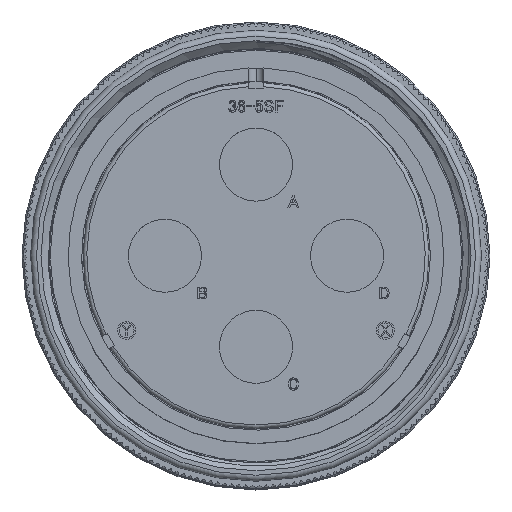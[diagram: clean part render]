
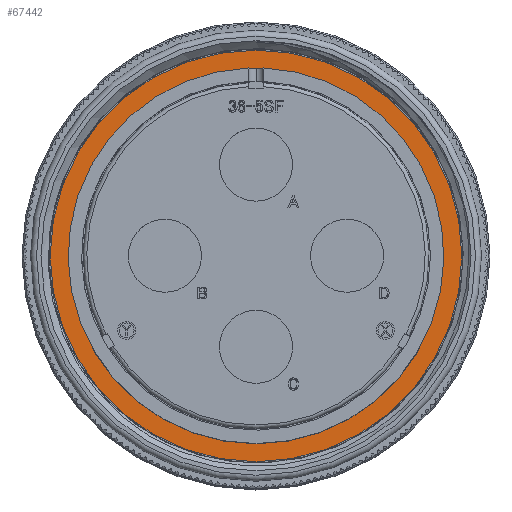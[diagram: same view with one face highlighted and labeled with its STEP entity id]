
A CAD part, top view. The second image highlights one B-rep face of the part: STEP entity #67442.
In plain terms, the highlighted planar face has unit normal (0, 0, 1).
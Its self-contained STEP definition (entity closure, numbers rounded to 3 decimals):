
#2685 = AXIS2_PLACEMENT_3D ( 'NONE', #93390, #58841, #85706 ) ;
#3106 = EDGE_LOOP ( 'NONE', ( #109513, #5513 ) ) ;
#5513 = ORIENTED_EDGE ( 'NONE', *, *, #36205, .F. ) ;
#5668 = PLANE ( 'NONE',  #16901 ) ;
#7629 = AXIS2_PLACEMENT_3D ( 'NONE', #79920, #27207, #71876 ) ;
#8226 = CARTESIAN_POINT ( 'NONE',  ( -0.999, 25.125, -16.66 ) ) ;
#14100 = DIRECTION ( 'NONE',  ( 0., 0., 1. ) ) ;
#16901 = AXIS2_PLACEMENT_3D ( 'NONE', #58702, #41022, #92492 ) ;
#23165 = CARTESIAN_POINT ( 'NONE',  ( 27.545, 0., -16.66 ) ) ;
#24816 = CARTESIAN_POINT ( 'NONE',  ( 0.999, 25.125, -16.66 ) ) ;
#27207 = DIRECTION ( 'NONE',  ( 0., 0., 1. ) ) ;
#32761 = VERTEX_POINT ( 'NONE', #24816 ) ;
#33607 = VERTEX_POINT ( 'NONE', #8226 ) ;
#36205 = EDGE_CURVE ( 'NONE', #33607, #32761, #85456, .T. ) ;
#36359 = EDGE_CURVE ( 'NONE', #64292, #64292, #63429, .T. ) ;
#40528 = FACE_BOUND ( 'NONE', #3106, .T. ) ;
#41022 = DIRECTION ( 'NONE',  ( 0., 0., -1. ) ) ;
#48740 = EDGE_LOOP ( 'NONE', ( #109269 ) ) ;
#49486 = DIRECTION ( 'NONE',  ( 1., 0., 0. ) ) ;
#58702 = CARTESIAN_POINT ( 'NONE',  ( 0., 27.545, -16.66 ) ) ;
#58841 = DIRECTION ( 'NONE',  ( 0., 0., 1. ) ) ;
#59085 = CARTESIAN_POINT ( 'NONE',  ( 0., 0., -16.66 ) ) ;
#63429 = CIRCLE ( 'NONE', #7629, 27.545 ) ;
#64292 = VERTEX_POINT ( 'NONE', #23165 ) ;
#67442 = ADVANCED_FACE ( 'NONE', ( #40528, #94091 ), #5668, .F. ) ;
#71876 = DIRECTION ( 'NONE',  ( 1., 0., 0. ) ) ;
#79920 = CARTESIAN_POINT ( 'NONE',  ( 0., 0., -16.66 ) ) ;
#85456 = CIRCLE ( 'NONE', #2685, 25.145 ) ;
#85706 = DIRECTION ( 'NONE',  ( 1., 0., 0. ) ) ;
#89809 = AXIS2_PLACEMENT_3D ( 'NONE', #59085, #14100, #49486 ) ;
#91574 = EDGE_CURVE ( 'NONE', #32761, #33607, #113934, .T. ) ;
#92492 = DIRECTION ( 'NONE',  ( -1., 0., 0. ) ) ;
#93390 = CARTESIAN_POINT ( 'NONE',  ( 0., 0., -16.66 ) ) ;
#94091 = FACE_OUTER_BOUND ( 'NONE', #48740, .T. ) ;
#109269 = ORIENTED_EDGE ( 'NONE', *, *, #36359, .T. ) ;
#109513 = ORIENTED_EDGE ( 'NONE', *, *, #91574, .F. ) ;
#113934 = CIRCLE ( 'NONE', #89809, 25.145 ) ;
